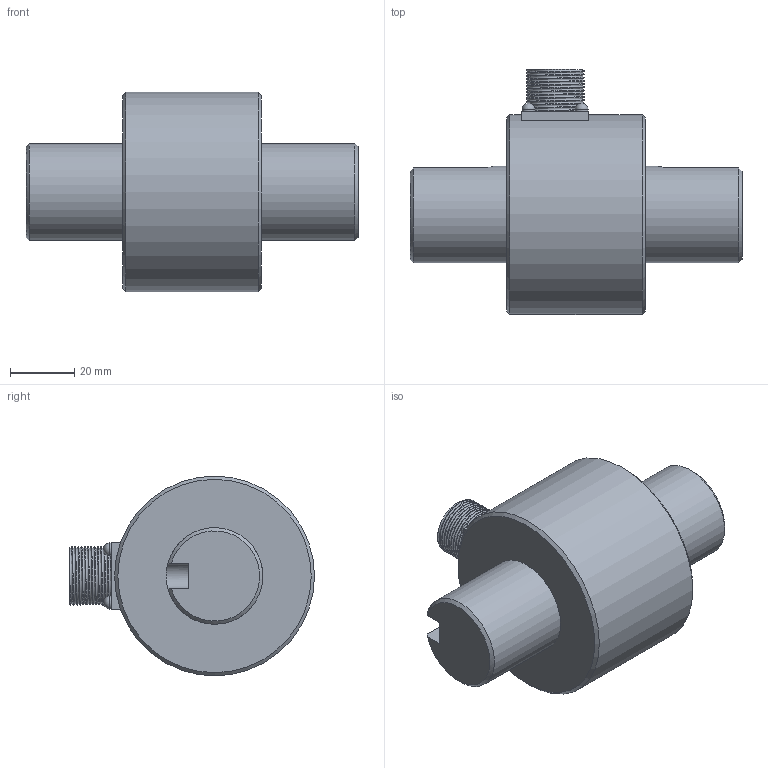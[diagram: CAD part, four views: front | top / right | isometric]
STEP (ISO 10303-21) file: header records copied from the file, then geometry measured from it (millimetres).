
FILE_DESCRIPTION(/* description */ (''),/* implementation_level */ '2;1');
FILE_NAME(/* name */ 'I:/New Datasheets/STEP Models/Pending models/YDNS/YDNS 100-200 Nm.step',/* time_stamp */ '2020-10-08T10:18:31+01:00',/* author */ (''),/* organization */ (''),/* preprocessor_version */ 'ST-DEVELOPER v18.1',/* originating_system */ 'Autodesk Translation Framework v9.3.0.1241',/* authorisation */ '');
FILE_SCHEMA (('AUTOMOTIVE_DESIGN { 1 0 10303 214 3 1 1 }'));
Length unit declared in the file: millimetre
Products named in the file (3): YDNS 100-200 Nm; YDNS 10~20KM Body; YDNS 10~20KM Shaft
Assembly tree (2 placements, depth 2):
  YDNS 100-200 Nm
    YDNS 10~20KM Body
    YDNS 10~20KM Shaft
Bounding box: 103 x 76 x 62 mm (x, y, z)
Volume: 173134.6 mm3; surface area: 29758.2 mm2
Topology: 2 solids, 2 shells, 48 faces, 121 edges, 79 vertices
Faces by surface type: cylinder 23, plane 16, sphere 4, cone 4, bspline 1
Full cylindrical faces by diameter (mm): 4 x4, 18 x12, 30 x2, 62 x1
Entity records: 4191 total; most frequent: CARTESIAN_POINT 2959, ORIENTED_EDGE 234, DIRECTION 216, EDGE_CURVE 117, AXIS2_PLACEMENT_3D 83, VERTEX_POINT 79, EDGE_LOOP 56, LINE 50
